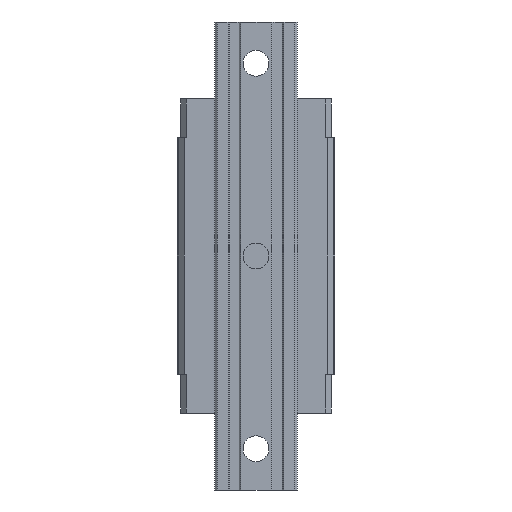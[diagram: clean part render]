
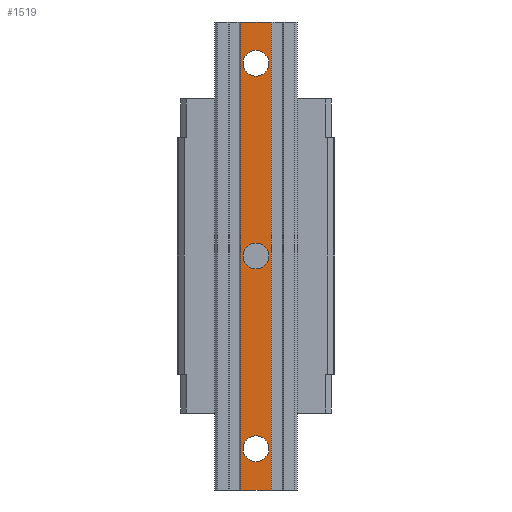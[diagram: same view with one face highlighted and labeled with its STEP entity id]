
A CAD part, front view. The second image highlights one B-rep face of the part: STEP entity #1519.
In plain terms, the highlighted planar face has unit normal (0, -1, 0).
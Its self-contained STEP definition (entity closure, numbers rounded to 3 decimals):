
#37 = EDGE_CURVE ( 'NONE', #953, #2822, #1350, .T. ) ;
#43 = VECTOR ( 'NONE', #1727, 1000. ) ;
#50 = VERTEX_POINT ( 'NONE', #3521 ) ;
#102 = ORIENTED_EDGE ( 'NONE', *, *, #5222, .T. ) ;
#145 = EDGE_CURVE ( 'NONE', #4740, #5968, #1536, .T. ) ;
#177 = CIRCLE ( 'NONE', #4056, 7. ) ;
#412 = VECTOR ( 'NONE', #2964, 1000. ) ;
#697 = ORIENTED_EDGE ( 'NONE', *, *, #2499, .T. ) ;
#719 = EDGE_CURVE ( 'NONE', #2822, #953, #5413, .T. ) ;
#818 = EDGE_LOOP ( 'NONE', ( #4639, #697 ) ) ;
#874 = CARTESIAN_POINT ( 'NONE',  ( -8.25, -38., -127.5 ) ) ;
#888 = DIRECTION ( 'NONE',  ( 0., 1., 0. ) ) ;
#934 = PLANE ( 'NONE',  #1313 ) ;
#953 = VERTEX_POINT ( 'NONE', #1001 ) ;
#1001 = CARTESIAN_POINT ( 'NONE',  ( 0., -38., 7. ) ) ;
#1033 = VECTOR ( 'NONE', #1506, 1000. ) ;
#1065 = CARTESIAN_POINT ( 'NONE',  ( 0., -38., 105. ) ) ;
#1069 = ORIENTED_EDGE ( 'NONE', *, *, #37, .T. ) ;
#1086 = DIRECTION ( 'NONE',  ( 0., 0., 1. ) ) ;
#1189 = ORIENTED_EDGE ( 'NONE', *, *, #719, .T. ) ;
#1235 = EDGE_LOOP ( 'NONE', ( #4800, #6751 ) ) ;
#1313 = AXIS2_PLACEMENT_3D ( 'NONE', #5148, #3614, #5750 ) ;
#1328 = LINE ( 'NONE', #5019, #412 ) ;
#1350 = CIRCLE ( 'NONE', #3997, 7. ) ;
#1487 = VERTEX_POINT ( 'NONE', #3576 ) ;
#1506 = DIRECTION ( 'NONE',  ( 1., 0., 0. ) ) ;
#1517 = FACE_OUTER_BOUND ( 'NONE', #4425, .T. ) ;
#1519 = ADVANCED_FACE ( 'NONE', ( #2564, #6711, #6257, #1517 ), #934, .T. ) ;
#1536 = LINE ( 'NONE', #2548, #6208 ) ;
#1576 = DIRECTION ( 'NONE',  ( 0., 0., 1. ) ) ;
#1727 = DIRECTION ( 'NONE',  ( 0., 0., -1. ) ) ;
#1835 = EDGE_CURVE ( 'NONE', #50, #3610, #6130, .T. ) ;
#1943 = CARTESIAN_POINT ( 'NONE',  ( 0., -38., 0. ) ) ;
#2007 = DIRECTION ( 'NONE',  ( 0., 0., 1. ) ) ;
#2067 = CARTESIAN_POINT ( 'NONE',  ( -8.25, -38., 127.5 ) ) ;
#2089 = DIRECTION ( 'NONE',  ( 0., 0., 1. ) ) ;
#2131 = CARTESIAN_POINT ( 'NONE',  ( 0., -38., -7. ) ) ;
#2389 = ORIENTED_EDGE ( 'NONE', *, *, #145, .T. ) ;
#2499 = EDGE_CURVE ( 'NONE', #6283, #1487, #6396, .T. ) ;
#2518 = DIRECTION ( 'NONE',  ( 0., 1., 0. ) ) ;
#2548 = CARTESIAN_POINT ( 'NONE',  ( 8.25, -38., -127.5 ) ) ;
#2564 = FACE_BOUND ( 'NONE', #5122, .T. ) ;
#2666 = CARTESIAN_POINT ( 'NONE',  ( 0., -38., 112. ) ) ;
#2807 = VERTEX_POINT ( 'NONE', #2067 ) ;
#2822 = VERTEX_POINT ( 'NONE', #2131 ) ;
#2917 = DIRECTION ( 'NONE',  ( 0., 1., 0. ) ) ;
#2964 = DIRECTION ( 'NONE',  ( 1., 0., 0. ) ) ;
#2970 = LINE ( 'NONE', #5105, #1033 ) ;
#2987 = DIRECTION ( 'NONE',  ( 0., 0., 1. ) ) ;
#3183 = CARTESIAN_POINT ( 'NONE',  ( 8.25, -38., -127.5 ) ) ;
#3266 = EDGE_CURVE ( 'NONE', #3610, #50, #5007, .T. ) ;
#3521 = CARTESIAN_POINT ( 'NONE',  ( 0., -38., 98. ) ) ;
#3522 = VERTEX_POINT ( 'NONE', #874 ) ;
#3576 = CARTESIAN_POINT ( 'NONE',  ( 0., -38., -98. ) ) ;
#3610 = VERTEX_POINT ( 'NONE', #2666 ) ;
#3613 = AXIS2_PLACEMENT_3D ( 'NONE', #5973, #5456, #4856 ) ;
#3614 = DIRECTION ( 'NONE',  ( 0., -1., 0. ) ) ;
#3694 = AXIS2_PLACEMENT_3D ( 'NONE', #4035, #888, #3741 ) ;
#3741 = DIRECTION ( 'NONE',  ( 0., 0., 1. ) ) ;
#3808 = CARTESIAN_POINT ( 'NONE',  ( 8.25, -38., 127.5 ) ) ;
#3997 = AXIS2_PLACEMENT_3D ( 'NONE', #1943, #2917, #2987 ) ;
#4035 = CARTESIAN_POINT ( 'NONE',  ( 0., -38., 105. ) ) ;
#4056 = AXIS2_PLACEMENT_3D ( 'NONE', #6771, #2518, #1576 ) ;
#4214 = DIRECTION ( 'NONE',  ( 0., 1., 0. ) ) ;
#4388 = CARTESIAN_POINT ( 'NONE',  ( 0., -38., -112. ) ) ;
#4425 = EDGE_LOOP ( 'NONE', ( #2389, #5145, #102, #5344 ) ) ;
#4470 = EDGE_CURVE ( 'NONE', #2807, #5968, #2970, .T. ) ;
#4639 = ORIENTED_EDGE ( 'NONE', *, *, #6684, .T. ) ;
#4673 = CARTESIAN_POINT ( 'NONE',  ( 0., -38., 0. ) ) ;
#4740 = VERTEX_POINT ( 'NONE', #3183 ) ;
#4800 = ORIENTED_EDGE ( 'NONE', *, *, #3266, .T. ) ;
#4856 = DIRECTION ( 'NONE',  ( 0., 0., 1. ) ) ;
#5007 = CIRCLE ( 'NONE', #3694, 7. ) ;
#5019 = CARTESIAN_POINT ( 'NONE',  ( 0., -38., -127.5 ) ) ;
#5105 = CARTESIAN_POINT ( 'NONE',  ( 0., -38., 127.5 ) ) ;
#5122 = EDGE_LOOP ( 'NONE', ( #1069, #1189 ) ) ;
#5145 = ORIENTED_EDGE ( 'NONE', *, *, #4470, .F. ) ;
#5148 = CARTESIAN_POINT ( 'NONE',  ( -8.25, -38., -127.5 ) ) ;
#5222 = EDGE_CURVE ( 'NONE', #2807, #3522, #5343, .T. ) ;
#5343 = LINE ( 'NONE', #5922, #43 ) ;
#5344 = ORIENTED_EDGE ( 'NONE', *, *, #5821, .T. ) ;
#5413 = CIRCLE ( 'NONE', #6741, 7. ) ;
#5456 = DIRECTION ( 'NONE',  ( 0., 1., 0. ) ) ;
#5698 = AXIS2_PLACEMENT_3D ( 'NONE', #1065, #4214, #2089 ) ;
#5750 = DIRECTION ( 'NONE',  ( 0., 0., -1. ) ) ;
#5821 = EDGE_CURVE ( 'NONE', #3522, #4740, #1328, .T. ) ;
#5922 = CARTESIAN_POINT ( 'NONE',  ( -8.25, -38., -127.5 ) ) ;
#5968 = VERTEX_POINT ( 'NONE', #3808 ) ;
#5973 = CARTESIAN_POINT ( 'NONE',  ( 0., -38., -105. ) ) ;
#6130 = CIRCLE ( 'NONE', #5698, 7. ) ;
#6208 = VECTOR ( 'NONE', #1086, 1000. ) ;
#6257 = FACE_BOUND ( 'NONE', #818, .T. ) ;
#6283 = VERTEX_POINT ( 'NONE', #4388 ) ;
#6396 = CIRCLE ( 'NONE', #3613, 7. ) ;
#6684 = EDGE_CURVE ( 'NONE', #1487, #6283, #177, .T. ) ;
#6711 = FACE_BOUND ( 'NONE', #1235, .T. ) ;
#6741 = AXIS2_PLACEMENT_3D ( 'NONE', #4673, #6763, #2007 ) ;
#6751 = ORIENTED_EDGE ( 'NONE', *, *, #1835, .T. ) ;
#6763 = DIRECTION ( 'NONE',  ( 0., 1., 0. ) ) ;
#6771 = CARTESIAN_POINT ( 'NONE',  ( 0., -38., -105. ) ) ;
